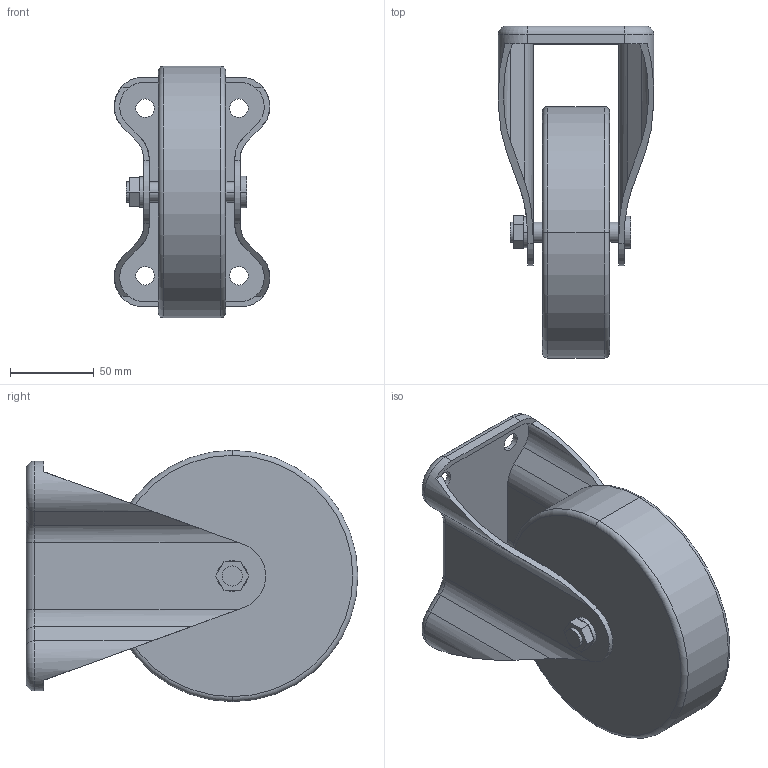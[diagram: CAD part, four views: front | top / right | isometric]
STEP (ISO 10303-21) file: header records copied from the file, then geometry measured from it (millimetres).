
FILE_DESCRIPTION (( 'STEP AP214' ), '1' );
FILE_NAME ('NRK-150.STEP', '2020-03-23T14:21:33', ( '' ), ( '' ), 'SwSTEP 2.0', 'SolidWorks 2019', '' );
FILE_SCHEMA (( 'AUTOMOTIVE_DESIGN' ));
Length unit declared in the file: millimetre
Products named in the file (6): M_SW; NRK-150; M_nut; NRK-150_jiku; NRK-150_partsA; NRK-150_wheel
Assembly tree (5 placements, depth 2):
  NRK-150
    NRK-150_partsA
    NRK-150_wheel
    NRK-150_jiku
    M_SW
    M_nut
Bounding box: 92.94 x 198 x 150 mm (x, y, z)
Volume: 818308 mm3; surface area: 130457.9 mm2
Topology: 5 solids, 5 shells, 103 faces, 256 edges, 164 vertices
Faces by surface type: cylinder 52, plane 39, torus 12
Entity records: 3360 total; most frequent: CARTESIAN_POINT 579, DIRECTION 574, ORIENTED_EDGE 512, EDGE_CURVE 256, AXIS2_PLACEMENT_3D 223, VERTEX_POINT 164, VECTOR 128, LINE 128
